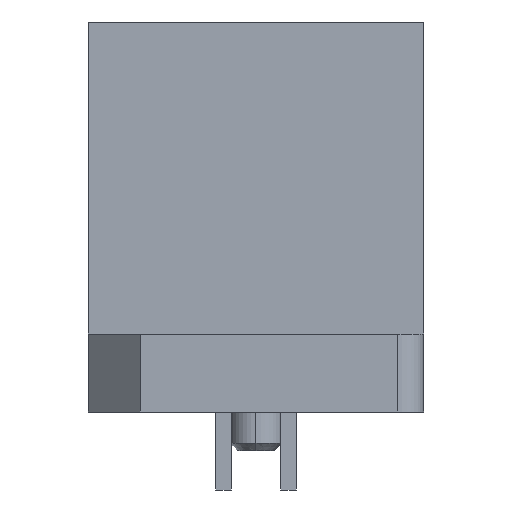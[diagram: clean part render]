
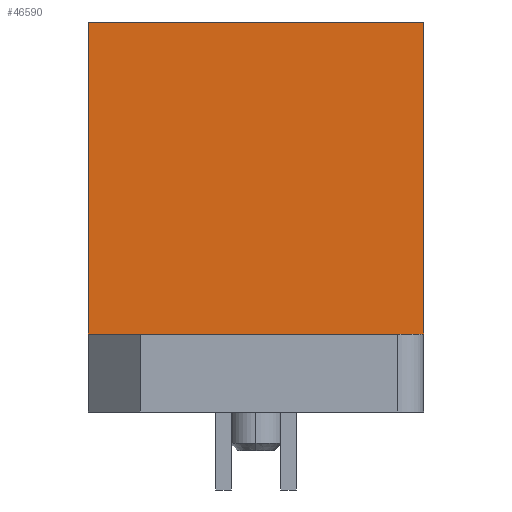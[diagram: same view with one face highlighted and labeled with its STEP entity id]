
A CAD part, left-side view. The second image highlights one B-rep face of the part: STEP entity #46590.
In plain terms, the highlighted planar face has unit normal (-1, 0, 0).
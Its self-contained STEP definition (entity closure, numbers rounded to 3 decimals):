
#29490=CARTESIAN_POINT('',(16.472,-7.636,-5.5));
#29500=VERTEX_POINT('',#29490);
#29530=CARTESIAN_POINT('',(16.472,0.364,-5.5));
#29540=DIRECTION('',(0.,1.,0.));
#29550=VECTOR('',#29540,1.);
#29560=LINE('',#29530,#29550);
#29570=CARTESIAN_POINT('',(16.472,5.264,-5.5));
#29580=VERTEX_POINT('',#29570);
#29590=EDGE_CURVE('',#29500,#29580,#29560,.T.);
#38810=CARTESIAN_POINT('',(16.472,5.264,
-13.));
#38820=DIRECTION('',(0.,0.,-1.));
#38830=VECTOR('',#38820,1.);
#38840=LINE('',#38810,#38830);
#38850=CARTESIAN_POINT('',(16.472,5.264,-17.5));
#38860=VERTEX_POINT('',#38850);
#38870=EDGE_CURVE('',#29580,#38860,#38840,.T.);
#46000=CARTESIAN_POINT('',(16.472,-7.636,-17.5));
#46010=VERTEX_POINT('',#46000);
#46040=CARTESIAN_POINT('',(16.472,-7.636,
-13.));
#46050=DIRECTION('',(0.,0.,1.));
#46060=VECTOR('',#46050,1.);
#46070=LINE('',#46040,#46060);
#46080=EDGE_CURVE('',#46010,#29500,#46070,.T.);
#46240=CARTESIAN_POINT('',(16.472,0.364,-17.5));
#46250=DIRECTION('',(0.,1.,0.));
#46260=VECTOR('',#46250,1.);
#46270=LINE('',#46240,#46260);
#46280=EDGE_CURVE('',#46010,#38860,#46270,.T.);
#46480=CARTESIAN_POINT('',(16.472,6.554,-19.1));
#46490=DIRECTION('',(-1.,0.,0.));
#46500=DIRECTION('',(0.,0.,1.));
#46510=AXIS2_PLACEMENT_3D('',#46480,#46490,#46500);
#46520=PLANE('',#46510);
#46530=ORIENTED_EDGE('',*,*,#38870,.T.);
#46540=ORIENTED_EDGE('',*,*,#29590,.T.);
#46550=ORIENTED_EDGE('',*,*,#46080,.T.);
#46560=ORIENTED_EDGE('',*,*,#46280,.F.);
#46570=EDGE_LOOP('',(#46560,#46550,#46540,#46530));
#46580=FACE_OUTER_BOUND('',#46570,.T.);
#46590=ADVANCED_FACE('',(#46580),#46520,.T.);
